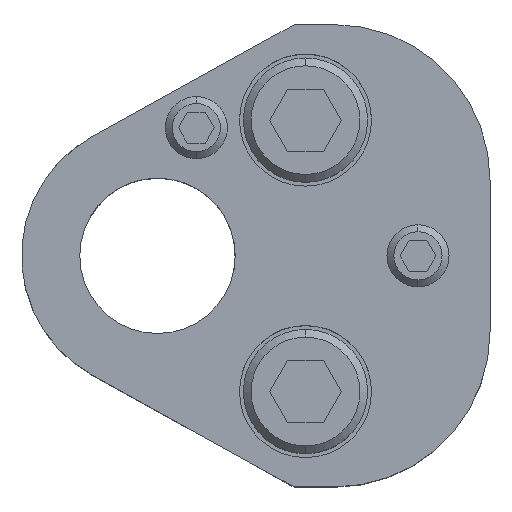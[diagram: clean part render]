
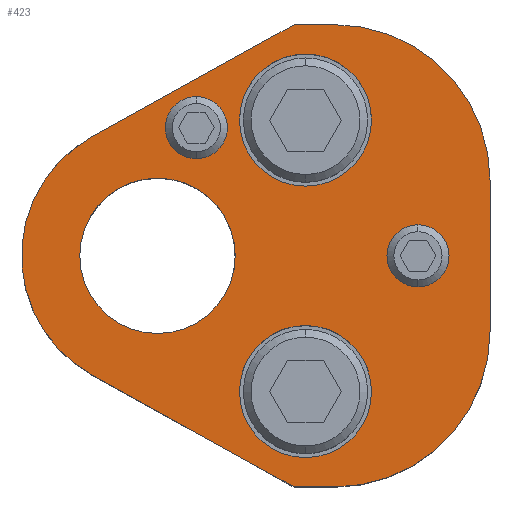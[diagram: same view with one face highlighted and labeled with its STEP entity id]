
A CAD part, top view. The second image highlights one B-rep face of the part: STEP entity #423.
In plain terms, the highlighted planar face has unit normal (0, 0, 1).
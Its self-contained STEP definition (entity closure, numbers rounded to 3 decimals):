
#198=FACE_BOUND('',#745,.T.);
#199=FACE_BOUND('',#746,.T.);
#200=FACE_BOUND('',#747,.T.);
#201=FACE_BOUND('',#748,.T.);
#202=FACE_BOUND('',#749,.T.);
#203=FACE_BOUND('',#750,.T.);
#273=CIRCLE('',#2385,20.);
#275=CIRCLE('',#2389,20.);
#277=CIRCLE('',#2394,4.);
#279=CIRCLE('',#2397,4.);
#281=CIRCLE('',#2400,4.);
#283=CIRCLE('',#2403,4.);
#293=CIRCLE('',#2418,17.5);
#294=CIRCLE('',#2419,8.5);
#295=CIRCLE('',#2420,8.5);
#296=CIRCLE('',#2421,8.5);
#297=CIRCLE('',#2422,8.5);
#298=CIRCLE('',#2423,10.);
#299=CIRCLE('',#2424,10.);
#423=ADVANCED_FACE('',(#198,#199,#200,#201,#202,#203),#519,.T.);
#519=PLANE('',#2425);
#745=EDGE_LOOP('',(#1122,#1123,#1124,#1125,#1126,#1127,#1128,#1129));
#746=EDGE_LOOP('',(#1130,#1131));
#747=EDGE_LOOP('',(#1132,#1133));
#748=EDGE_LOOP('',(#1134,#1135));
#749=EDGE_LOOP('',(#1136,#1137));
#750=EDGE_LOOP('',(#1138,#1139));
#1122=ORIENTED_EDGE('',*,*,#1794,.T.);
#1123=ORIENTED_EDGE('',*,*,#1752,.T.);
#1124=ORIENTED_EDGE('',*,*,#1756,.T.);
#1125=ORIENTED_EDGE('',*,*,#1759,.T.);
#1126=ORIENTED_EDGE('',*,*,#1762,.T.);
#1127=ORIENTED_EDGE('',*,*,#1765,.T.);
#1128=ORIENTED_EDGE('',*,*,#1768,.T.);
#1129=ORIENTED_EDGE('',*,*,#1795,.T.);
#1130=ORIENTED_EDGE('',*,*,#1796,.F.);
#1131=ORIENTED_EDGE('',*,*,#1797,.F.);
#1132=ORIENTED_EDGE('',*,*,#1798,.F.);
#1133=ORIENTED_EDGE('',*,*,#1799,.F.);
#1134=ORIENTED_EDGE('',*,*,#1780,.F.);
#1135=ORIENTED_EDGE('',*,*,#1776,.F.);
#1136=ORIENTED_EDGE('',*,*,#1774,.F.);
#1137=ORIENTED_EDGE('',*,*,#1770,.F.);
#1138=ORIENTED_EDGE('',*,*,#1800,.T.);
#1139=ORIENTED_EDGE('',*,*,#1801,.T.);
#1513=VERTEX_POINT('',#3544);
#1514=VERTEX_POINT('',#3546);
#1517=VERTEX_POINT('',#3553);
#1519=VERTEX_POINT('',#3559);
#1521=VERTEX_POINT('',#3565);
#1523=VERTEX_POINT('',#3571);
#1525=VERTEX_POINT('',#3577);
#1526=VERTEX_POINT('',#3582);
#1527=VERTEX_POINT('',#3583);
#1530=VERTEX_POINT('',#3594);
#1531=VERTEX_POINT('',#3595);
#1542=VERTEX_POINT('',#3630);
#1543=VERTEX_POINT('',#3633);
#1544=VERTEX_POINT('',#3634);
#1545=VERTEX_POINT('',#3637);
#1546=VERTEX_POINT('',#3638);
#1547=VERTEX_POINT('',#3641);
#1548=VERTEX_POINT('',#3642);
#1752=EDGE_CURVE('',#1514,#1513,#2006,.T.);
#1756=EDGE_CURVE('',#1513,#1517,#273,.T.);
#1759=EDGE_CURVE('',#1517,#1519,#2011,.T.);
#1762=EDGE_CURVE('',#1519,#1521,#275,.T.);
#1765=EDGE_CURVE('',#1521,#1523,#2015,.T.);
#1768=EDGE_CURVE('',#1523,#1525,#2018,.T.);
#1770=EDGE_CURVE('',#1526,#1527,#277,.T.);
#1774=EDGE_CURVE('',#1527,#1526,#279,.T.);
#1776=EDGE_CURVE('',#1530,#1531,#281,.T.);
#1780=EDGE_CURVE('',#1531,#1530,#283,.T.);
#1794=EDGE_CURVE('',#1542,#1514,#2028,.T.);
#1795=EDGE_CURVE('',#1525,#1542,#293,.T.);
#1796=EDGE_CURVE('',#1543,#1544,#294,.T.);
#1797=EDGE_CURVE('',#1544,#1543,#295,.T.);
#1798=EDGE_CURVE('',#1545,#1546,#296,.T.);
#1799=EDGE_CURVE('',#1546,#1545,#297,.T.);
#1800=EDGE_CURVE('',#1547,#1548,#298,.T.);
#1801=EDGE_CURVE('',#1548,#1547,#299,.T.);
#2006=LINE('',#3545,#2179);
#2011=LINE('',#3560,#2184);
#2015=LINE('',#3572,#2188);
#2018=LINE('',#3578,#2191);
#2028=LINE('',#3629,#2201);
#2179=VECTOR('',#2815,1.);
#2184=VECTOR('',#2828,1.);
#2188=VECTOR('',#2840,1.);
#2191=VECTOR('',#2845,1.);
#2201=VECTOR('',#2905,1.);
#2385=AXIS2_PLACEMENT_3D('',#3554,#2821,#2822);
#2389=AXIS2_PLACEMENT_3D('',#3566,#2833,#2834);
#2394=AXIS2_PLACEMENT_3D('',#3581,#2849,#2850);
#2397=AXIS2_PLACEMENT_3D('',#3590,#2857,#2858);
#2400=AXIS2_PLACEMENT_3D('',#3593,#2863,#2864);
#2403=AXIS2_PLACEMENT_3D('',#3602,#2871,#2872);
#2418=AXIS2_PLACEMENT_3D('',#3631,#2906,#2907);
#2419=AXIS2_PLACEMENT_3D('',#3632,#2908,#2909);
#2420=AXIS2_PLACEMENT_3D('',#3635,#2910,#2911);
#2421=AXIS2_PLACEMENT_3D('',#3636,#2912,#2913);
#2422=AXIS2_PLACEMENT_3D('',#3639,#2914,#2915);
#2423=AXIS2_PLACEMENT_3D('',#3640,#2916,#2917);
#2424=AXIS2_PLACEMENT_3D('',#3643,#2918,#2919);
#2425=AXIS2_PLACEMENT_3D('',#3644,#2920,#2921);
#2815=DIRECTION('',(1.,0.,0.));
#2821=DIRECTION('',(0.,0.,1.));
#2822=DIRECTION('',(-0.707,0.707,0.));
#2828=DIRECTION('',(0.,1.,0.));
#2833=DIRECTION('',(0.,0.,1.));
#2834=DIRECTION('',(-0.707,-0.707,0.));
#2840=DIRECTION('',(-1.,0.,0.));
#2845=DIRECTION('',(-0.875,-0.485,0.));
#2849=DIRECTION('',(0.,0.,1.));
#2850=DIRECTION('',(-1.,0.,0.));
#2857=DIRECTION('',(0.,0.,1.));
#2858=DIRECTION('',(1.,0.,0.));
#2863=DIRECTION('',(0.,0.,1.));
#2864=DIRECTION('',(-1.,0.,0.));
#2871=DIRECTION('',(0.,0.,1.));
#2872=DIRECTION('',(1.,0.,0.));
#2905=DIRECTION('',(0.875,-0.485,0.));
#2906=DIRECTION('',(0.,0.,1.));
#2907=DIRECTION('',(1.,0.,0.));
#2908=DIRECTION('',(0.,0.,1.));
#2909=DIRECTION('',(1.,0.,0.));
#2910=DIRECTION('',(0.,0.,1.));
#2911=DIRECTION('',(-1.,0.,0.));
#2912=DIRECTION('',(0.,0.,1.));
#2913=DIRECTION('',(1.,0.,0.));
#2914=DIRECTION('',(0.,0.,1.));
#2915=DIRECTION('',(-1.,0.,0.));
#2916=DIRECTION('',(0.,0.,-1.));
#2917=DIRECTION('',(-1.,0.,0.));
#2918=DIRECTION('',(0.,0.,-1.));
#2919=DIRECTION('',(1.,0.,0.));
#2920=DIRECTION('',(0.,0.,1.));
#2921=DIRECTION('',(-0.875,0.485,0.));
#3544=CARTESIAN_POINT('',(22.8,-29.75,25.));
#3545=CARTESIAN_POINT('',(17.574,-29.75,25.));
#3546=CARTESIAN_POINT('',(17.574,-29.75,25.));
#3553=CARTESIAN_POINT('',(42.8,-9.75,25.));
#3554=CARTESIAN_POINT('',(22.8,-9.75,25.));
#3559=CARTESIAN_POINT('',(42.8,9.75,25.));
#3560=CARTESIAN_POINT('',(42.8,9.75,25.));
#3565=CARTESIAN_POINT('',(22.8,29.75,25.));
#3566=CARTESIAN_POINT('',(22.8,9.75,25.));
#3571=CARTESIAN_POINT('',(17.574,29.75,25.));
#3572=CARTESIAN_POINT('',(17.574,29.75,25.));
#3577=CARTESIAN_POINT('',(-8.484,15.306,25.));
#3578=CARTESIAN_POINT('',(17.574,29.75,25.));
#3581=CARTESIAN_POINT('',(5.,16.5,25.));
#3582=CARTESIAN_POINT('',(5.,12.5,25.));
#3583=CARTESIAN_POINT('',(5.,20.5,25.));
#3590=CARTESIAN_POINT('',(5.,16.5,25.));
#3593=CARTESIAN_POINT('',(33.53,0.,25.));
#3594=CARTESIAN_POINT('',(33.53,-4.,25.));
#3595=CARTESIAN_POINT('',(33.53,4.,25.));
#3602=CARTESIAN_POINT('',(33.53,0.,25.));
#3629=CARTESIAN_POINT('',(17.574,-29.75,25.));
#3630=CARTESIAN_POINT('',(-8.484,-15.306,25.));
#3631=CARTESIAN_POINT('',(0.,0.,25.));
#3632=CARTESIAN_POINT('',(19.05,17.47,25.));
#3633=CARTESIAN_POINT('',(19.05,25.97,25.));
#3634=CARTESIAN_POINT('',(19.05,8.97,25.));
#3635=CARTESIAN_POINT('',(19.05,17.47,25.));
#3636=CARTESIAN_POINT('',(19.05,-17.47,25.));
#3637=CARTESIAN_POINT('',(19.05,-8.97,25.));
#3638=CARTESIAN_POINT('',(19.05,-25.97,25.));
#3639=CARTESIAN_POINT('',(19.05,-17.47,25.));
#3640=CARTESIAN_POINT('',(0.,0.,25.));
#3641=CARTESIAN_POINT('',(0.,10.,25.));
#3642=CARTESIAN_POINT('',(0.,-10.,25.));
#3643=CARTESIAN_POINT('',(0.,0.,25.));
#3644=CARTESIAN_POINT('',(-8.484,-15.306,25.));
